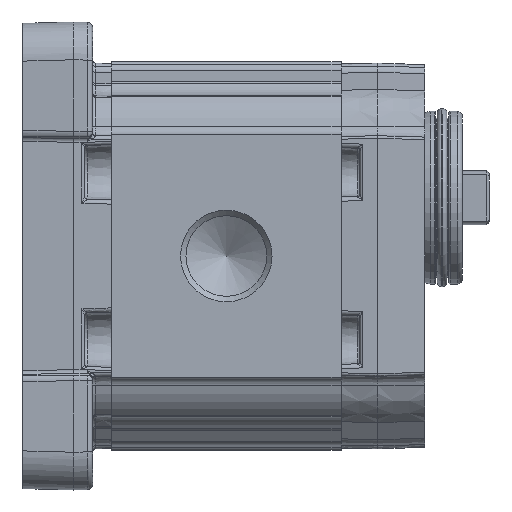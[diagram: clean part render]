
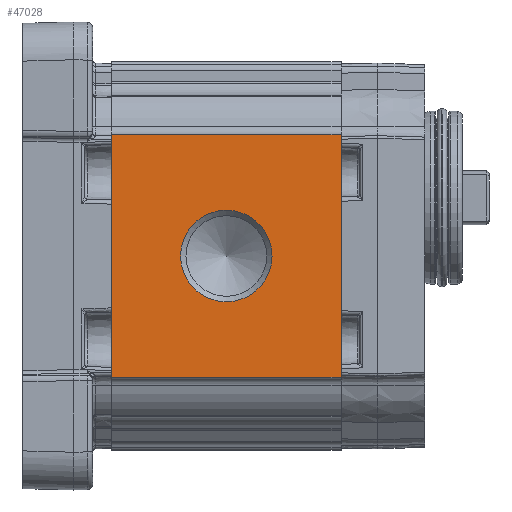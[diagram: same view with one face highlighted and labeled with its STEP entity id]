
A CAD part, left-side view. The second image highlights one B-rep face of the part: STEP entity #47028.
In plain terms, the highlighted planar face has unit normal (-1, 0, 0) as drawn and (1, 0, 0) by its records, which use the part's own axes.
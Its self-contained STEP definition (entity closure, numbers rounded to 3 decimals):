
#2738=PLANE('',#50054);
#3541=LINE('',#86758,#4943);
#3543=LINE('',#86787,#4945);
#3568=LINE('',#86875,#4970);
#3569=LINE('',#86877,#4971);
#4943=VECTOR('',#56521,1000.);
#4945=VECTOR('',#56549,1000.);
#4970=VECTOR('',#56642,1000.);
#4971=VECTOR('',#56645,1000.);
#10155=ORIENTED_EDGE('',*,*,#17815,.T.);
#10156=ORIENTED_EDGE('',*,*,#17805,.T.);
#10157=ORIENTED_EDGE('',*,*,#17757,.T.);
#10158=ORIENTED_EDGE('',*,*,#17806,.T.);
#10159=ORIENTED_EDGE('',*,*,#17743,.F.);
#17743=EDGE_CURVE('',#21841,#21842,#3541,.T.);
#17757=EDGE_CURVE('',#21856,#21855,#3543,.T.);
#17805=EDGE_CURVE('',#21841,#21856,#3568,.T.);
#17806=EDGE_CURVE('',#21855,#21842,#3569,.F.);
#17815=EDGE_CURVE('',#21885,#21885,#24501,.F.);
#21841=VERTEX_POINT('',#86757);
#21842=VERTEX_POINT('',#86759);
#21855=VERTEX_POINT('',#86786);
#21856=VERTEX_POINT('',#86788);
#21885=VERTEX_POINT('',#86903);
#24501=CIRCLE('',#50055,8.475);
#26749=EDGE_LOOP('',(#10155));
#26750=EDGE_LOOP('',(#10156,#10157,#10158,#10159));
#29160=FACE_BOUND('',#26749,.T.);
#29161=FACE_BOUND('',#26750,.T.);
#47028=ADVANCED_FACE('',(#29160,#29161),#2738,.T.);
#50054=AXIS2_PLACEMENT_3D('',#86901,#56684,#56685);
#50055=AXIS2_PLACEMENT_3D('',#86902,#56686,#56687);
#56521=DIRECTION('',(0.,0.,-1.));
#56549=DIRECTION('',(0.,0.,-1.));
#56642=DIRECTION('',(0.,-1.,0.));
#56645=DIRECTION('',(0.,-1.,0.));
#56684=DIRECTION('',(1.,0.,0.));
#56685=DIRECTION('',(0.,0.,-1.));
#56686=DIRECTION('',(1.,0.,0.));
#56687=DIRECTION('',(0.,0.,-1.));
#86757=CARTESIAN_POINT('',(33.,42.5,22.5));
#86758=CARTESIAN_POINT('',(33.,42.5,-21.711));
#86759=CARTESIAN_POINT('',(33.,42.5,-22.5));
#86786=CARTESIAN_POINT('',(33.,0.,-22.5));
#86787=CARTESIAN_POINT('',(33.,0.,-21.711));
#86788=CARTESIAN_POINT('',(33.,0.,22.5));
#86875=CARTESIAN_POINT('',(33.,42.5,22.5));
#86877=CARTESIAN_POINT('',(33.,42.5,-22.5));
#86901=CARTESIAN_POINT('',(33.,125.178,-45.494));
#86902=CARTESIAN_POINT('',(33.,21.25,0.));
#86903=CARTESIAN_POINT('',(33.,21.25,-8.475));
